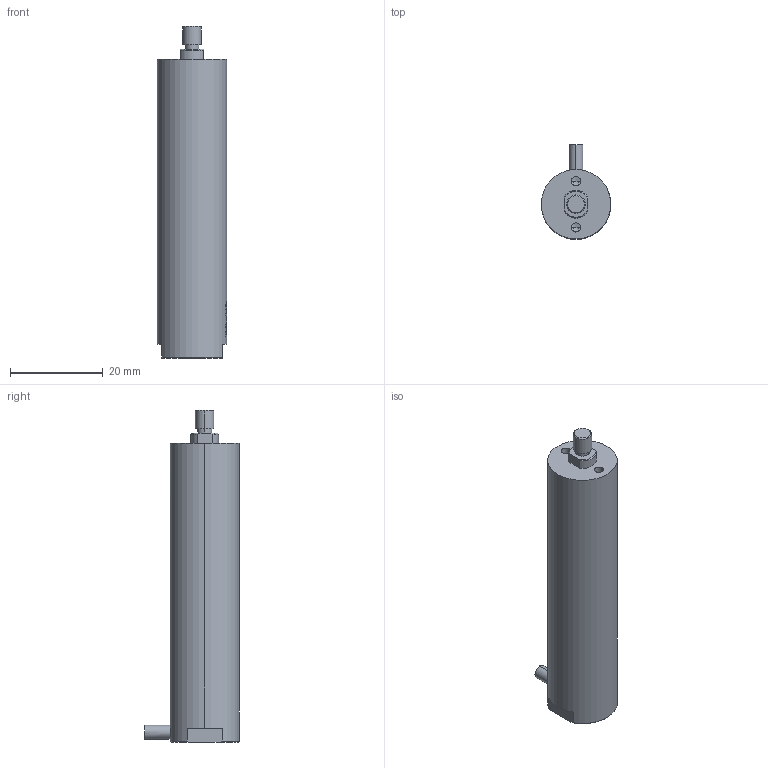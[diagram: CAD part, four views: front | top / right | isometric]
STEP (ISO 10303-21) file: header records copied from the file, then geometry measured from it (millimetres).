
FILE_DESCRIPTION (( 'STEP AP203' ), '1' );
FILE_NAME ('60VS15俋蹟恇.STEP', '2024-11-30T07:06:44', ( 'daohangxitong.com' ), ( 'daohangxitong.com' ), 'SwSTEP 2.0', 'SolidWorks 2016', '' );
FILE_SCHEMA (( 'CONFIG_CONTROL_DESIGN' ));
Length unit declared in the file: millimetre
Products named in the file (1): 60VS15俋蹟恇
Bounding box: 15 x 20.5 x 71.7 mm (x, y, z)
Volume: 11465.1 mm3; surface area: 3618.5 mm2
Topology: 1 solids, 1 shells, 956 faces, 2744 edges, 1823 vertices
Faces by surface type: bspline 835, plane 54, cylinder 53, cone 14
Entity records: 51766 total; most frequent: CARTESIAN_POINT 34170, ORIENTED_EDGE 5476, EDGE_CURVE 2738, B_SPLINE_CURVE_WITH_KNOTS 2560, VERTEX_POINT 1823, EDGE_LOOP 995, ADVANCED_FACE 956, FACE_OUTER_BOUND 956
